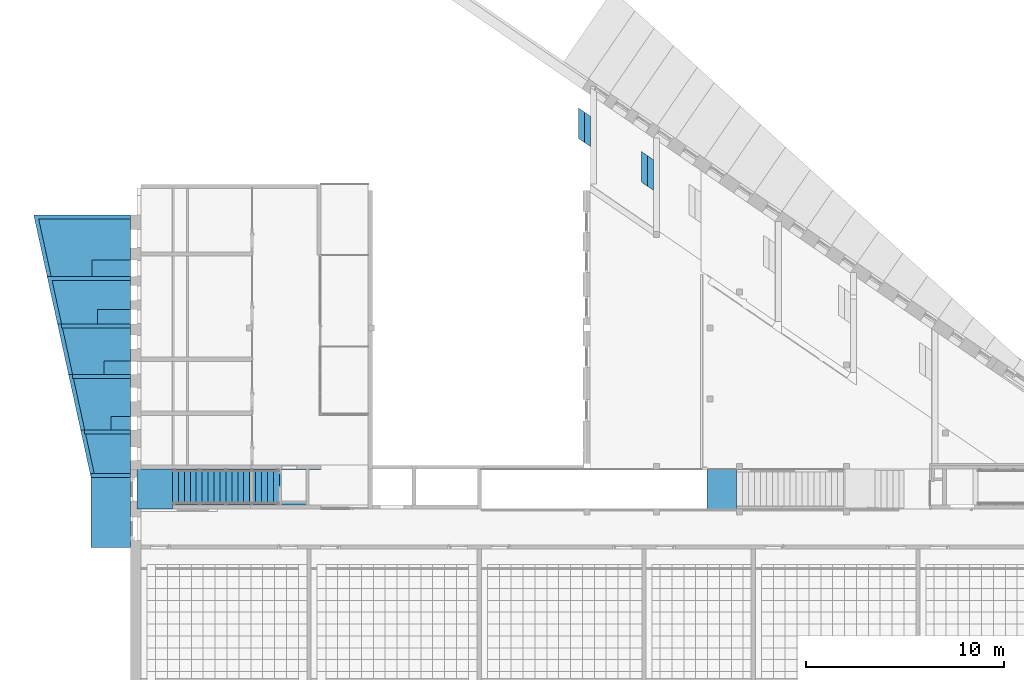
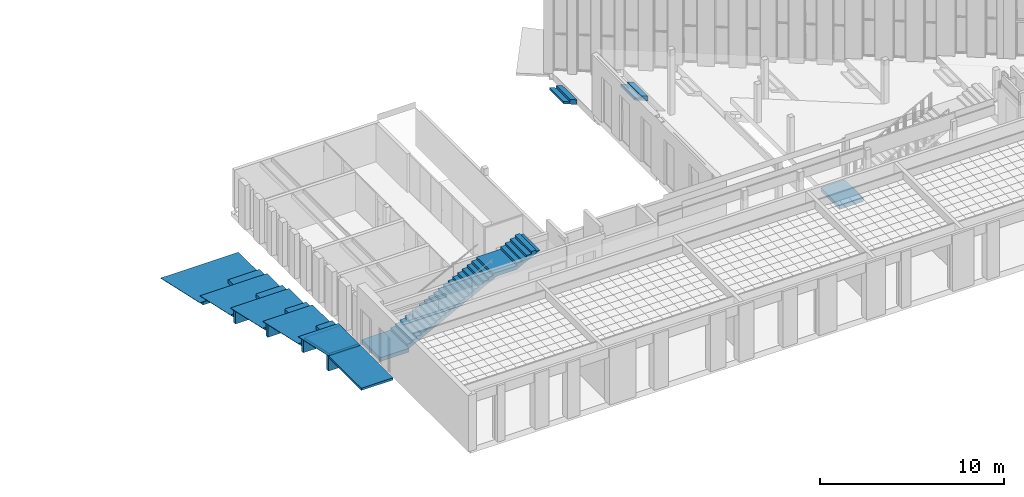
# One storey, part 47 of 79: 24 stairs.
"""IFC2X3 building model written with IfcOpenShell, lengths in millimetres."""

from ifc_helpers import new_model, entity, si_unit, converted_unit, derived_unit, money_unit, direction, frame, origin_with_axes, place, context, subcontext, project, spatial, faceted_brep, material, material_list, element, save


model = new_model("IFC2X3")

# Units and contexts
model_context = context("Model", 3, precision=0.01, world=origin_with_axes(), true_north=direction((0.0, 1.0)))
body_context = subcontext(model_context, "Body", "Model", "MODEL_VIEW")
ifc_project = project(units=[si_unit("LENGTHUNIT", "METRE", prefix="MILLI"), si_unit("AREAUNIT", "SQUARE_METRE"), si_unit("VOLUMEUNIT", "CUBIC_METRE"), converted_unit("PLANEANGLEUNIT", "DEGREE", entity("IfcPlaneAngleMeasure", 0.0174532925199), si_unit("PLANEANGLEUNIT", "RADIAN"), dimensions=[0, 0, 0, 0, 0, 0, 0]), si_unit("SOLIDANGLEUNIT", "STERADIAN"), money_unit("EUR"), converted_unit("TIMEUNIT", "Year", entity("IfcTimeMeasure", 31556926.0), si_unit("TIMEUNIT", "SECOND"), dimensions=[0, 0, 1, 0, 0, 0, 0]), si_unit("MASSUNIT", "GRAM", prefix="KILO"), si_unit("THERMODYNAMICTEMPERATUREUNIT", "DEGREE_CELSIUS"), si_unit("LUMINOUSINTENSITYUNIT", "LUMEN"), si_unit("ENERGYUNIT", "JOULE", prefix="MEGA"), derived_unit("THERMALCONDUCTANCEUNIT", [(si_unit("POWERUNIT", "WATT"), 1), (si_unit("LENGTHUNIT", "METRE"), -1), (si_unit("THERMODYNAMICTEMPERATUREUNIT", "KELVIN"), -1)]), derived_unit("SPECIFICHEATCAPACITYUNIT", [(si_unit("ENERGYUNIT", "JOULE"), 1), (si_unit("MASSUNIT", "GRAM", prefix="KILO"), -1), (si_unit("THERMODYNAMICTEMPERATUREUNIT", "KELVIN"), -1)]), derived_unit("MASSDENSITYUNIT", [(si_unit("MASSUNIT", "GRAM", prefix="KILO"), 1), (si_unit("VOLUMEUNIT", "CUBIC_METRE"), -1)])], contexts=[model_context])

# Site, building, storey
site_placement = place(None, origin_with_axes())
site = spatial("IfcSite", under=ifc_project, at=site_placement, Name="L.Koidula tn 11b", CompositionType="ELEMENT")
building_placement = place(site_placement, origin_with_axes())
building = spatial("IfcBuilding", under=site, at=building_placement, Name="Rakvere Riigigümnaasium", CompositionType="ELEMENT")
storey_placement = place(building_placement, frame((0.0, 0.0, 3720.0), z_axis=(0.0, 0.0, 1.0), x_axis=(1.0, 0.0, 0.0)))
storey = spatial("IfcBuildingStorey", under=building, at=storey_placement, Name="2.korrus +3,72", CompositionType="ELEMENT", Elevation=3720.0)

# Stairs
ifc_material_1 = material(Name="Puit-terrass")
stair_1_placement = place(storey_placement, frame((32986.0203572, 16700.4785302, -20.0), z_axis=(0.0, 0.0, 1.0), x_axis=(1.0, 0.0, 0.0)))
element("IfcStair", 1, at=stair_1_placement, inside=storey, material=ifc_material_1, Name="Astmestik-1", ShapeType="NOTDEFINED", context=body_context, shape_type="Brep", body=[
    faceted_brep([(0.0, 0.0, 0.0), (0.0, 0.0, -26.0), (1999.9796949, 0.0, -26.0), (1999.9796949, 0.0, 0.0), (-521.62019973, 2389.97699504, 0.0), (-521.62019973, 2389.97699504, -26.0), (1999.9796949, 2389.97699504, -26.0), (1999.9796949, 2389.97699504, 0.0)], [[[0, 1, 2, 3]], [[4, 5, 1, 0]], [[2, 1, 5, 6]], [[3, 2, 6, 7]], [[4, 0, 3, 7]], [[7, 6, 5, 4]]]),
])
ifc_material_2 = material(Name="Betoon element / plaat")
stair_2_placement = place(storey_placement, frame((35200.0000521, 15100.4785302, 0.0), z_axis=(0.0, 0.0, 1.0), x_axis=(1.0, 0.0, 0.0)))
element("IfcStair", 2, at=stair_2_placement, inside=storey, material=ifc_material_2, Name="TR-05", ShapeType="NOTDEFINED", context=body_context, shape_type="Brep", body=[
    faceted_brep([(100.0, 2009.97698206, -1.61944644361e-05), (100.0, 2009.97698206, -250.0), (100.0, 0.0, -250.0), (100.0, 0.0, -1.61944644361e-05), (1899.99994915, 2009.97697024, -250.0), (1899.99994915, 2009.97697024, 0.0), (1899.99994915, 0.0, -250.0), (1899.99994915, 0.0, 0.0)], [[[0, 1, 2, 3]], [[4, 1, 0, 5]], [[6, 2, 1, 4]], [[7, 3, 2, 6]], [[0, 3, 7, 5]], [[5, 7, 6, 4]]]),
])
stair_3_placement = place(storey_placement, frame((32464.4001575, 19090.4555253, -485.0), z_axis=(0.0, 0.0, 1.0), x_axis=(1.0, 0.0, 0.0)))
element("IfcStair", 3, at=stair_3_placement, inside=storey, material=ifc_material_1, Name="Astmestik-1", ShapeType="NOTDEFINED", context=body_context, shape_type="Brep", body=[
    faceted_brep([(1521.44264027, 0.0, 0.0), (0.0, 0.0, 0.0), (0.0, 0.0, -26.0), (1521.44264027, 0.0, -26.0), (2521.59989463, 2800.0, 0.0), (-611.109045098, 2800.0, 0.0), (1521.44264027, 690.0, 0.0), (2521.59989463, 690.0, 0.0), (-611.109045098, 2800.0, -26.0), (1521.44264027, 690.0, -26.0), (2521.59989463, 2800.0, -26.0), (2521.59989463, 690.0, -26.0)], [[[0, 1, 2, 3]], [[4, 5, 1, 0, 6, 7]], [[1, 5, 8, 2]], [[9, 3, 2, 8, 10, 11]], [[6, 0, 3, 9]], [[5, 4, 10, 8]], [[7, 6, 9, 11]], [[4, 7, 11, 10]]]),
])
stair_4_placement = place(storey_placement, frame((31853.2911124, 21890.4555253, -950.0), z_axis=(0.0, 0.0, 1.0), x_axis=(1.0, 0.0, 0.0)))
element("IfcStair", 4, at=stair_4_placement, inside=storey, material=ifc_material_1, Name="Astmestik-1", ShapeType="NOTDEFINED", context=body_context, shape_type="Brep", body=[
    faceted_brep([(1786.56227907, 0.0, 0.0), (0.0, 0.0, 0.0), (0.0, 0.0, -26.0), (1786.56227907, 0.0, -26.0), (3132.70893973, 2550.0, 0.0), (-556.5457375, 2550.0, 0.0), (1786.56227907, 690.0, 0.0), (3132.70893973, 690.0, 0.0), (-556.5457375, 2550.0, -26.0), (1786.56227907, 690.0, -26.0), (3132.70893973, 2550.0, -26.0), (3132.70893973, 690.0, -26.0)], [[[0, 1, 2, 3]], [[4, 5, 1, 0, 6, 7]], [[1, 5, 8, 2]], [[9, 3, 2, 8, 10, 11]], [[6, 0, 3, 9]], [[5, 4, 10, 8]], [[7, 6, 9, 11]], [[4, 7, 11, 10]]]),
])
stair_5_placement = place(storey_placement, frame((31296.7453749, 24440.4555253, -1415.0), z_axis=(0.0, 0.0, 1.0), x_axis=(1.0, 0.0, 0.0)))
element("IfcStair", 5, at=stair_5_placement, inside=storey, material=ifc_material_1, Name="Astmestik-1", ShapeType="NOTDEFINED", context=body_context, shape_type="Brep", body=[
    faceted_brep([(2028.01052156, 0.0, 0.0), (0.0, 0.0, 0.0), (0.0, 0.0, -26.0), (2028.01052156, 0.0, -26.0), (3689.25467723, 2400.0, 0.0), (-523.807752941, 2400.0, 0.0), (2028.01052156, 740.0, 0.0), (3689.25467723, 740.0, 0.0), (-523.807752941, 2400.0, -26.0), (2028.01052156, 740.0, -26.0), (3689.25467723, 2400.0, -26.0), (3689.25467723, 740.0, -26.0)], [[[0, 1, 2, 3]], [[4, 5, 1, 0, 6, 7]], [[1, 5, 8, 2]], [[9, 3, 2, 8, 10, 11]], [[6, 0, 3, 9]], [[5, 4, 10, 8]], [[7, 6, 9, 11]], [[4, 7, 11, 10]]]),
])
stair_6_placement = place(storey_placement, frame((30772.937622, 26840.4555253, -1880.0), z_axis=(0.0, 0.0, 1.0), x_axis=(1.0, 0.0, 0.0)))
element("IfcStair", 6, at=stair_6_placement, inside=storey, material=ifc_material_1, Name="Astmestik-1", ShapeType="NOTDEFINED", context=body_context, shape_type="Brep", body=[
    faceted_brep([(2255.25592624, 0.0, 0.0), (0.0, 0.0, 0.0), (0.0, 0.0, -26.0), (2255.25592624, 0.0, -26.0), (4213.06243017, 3099.99988007, 0.0), (-676.584988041, 3099.99988007, 0.0), (2255.25592624, 840.0, 0.0), (4213.06243017, 840.0, 0.0), (-676.584988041, 3099.99988007, -26.0), (2255.25592624, 840.0, -26.0), (4213.06243017, 3099.99988007, -26.0), (4213.06243017, 840.0, -26.0)], [[[0, 1, 2, 3]], [[4, 5, 1, 0, 6, 7]], [[1, 5, 8, 2]], [[9, 3, 2, 8, 10, 11]], [[6, 0, 3, 9]], [[5, 4, 10, 8]], [[7, 6, 9, 11]], [[4, 7, 11, 10]]]),
])
ifc_material_3 = material(Name="Betoon")
stair_7_placement = place(storey_placement, frame((57604.8070978, 33461.7953506, -2325.0), z_axis=(0.0, 0.0, 1.0), x_axis=(1.0, 0.0, 0.0)))
element("IfcStair", 7, at=stair_7_placement, inside=storey, material=ifc_material_3, Name="Trepp", ShapeType="NOTDEFINED", context=body_context, shape_type="Brep", body=[
    faceted_brep([(300.0, 151.659706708, 155.0), (300.0, 1691.67049532, 155.0), (0.0, 1897.41547384, 155.0), (0.0, 357.373095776, 155.0), (300.0, 151.659706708, 310.0), (300.0, 1691.67049532, 310.0), (0.0, 1897.41547384, 0.0), (600.0, 1485.9255168, 310.0), (600.0, 1485.9255168, 0.0), (0.0, 357.373095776, 0.0), (600.0, -54.0536823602, 0.0), (600.0, -54.0536823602, 310.0)], [[[0, 1, 2, 3]], [[1, 0, 4, 5]], [[6, 2, 1, 5, 7, 8]], [[2, 6, 9, 3]], [[0, 3, 9, 10, 11, 4]], [[7, 5, 4, 11]], [[11, 10, 8, 7]], [[8, 10, 9, 6]]]),
])
stair_8_placement = place(storey_placement, frame((60790.0092308, 31259.7377891, -1860.0), z_axis=(0.0, 0.0, 1.0), x_axis=(1.0, 0.0, 0.0)))
element("IfcStair", 8, at=stair_8_placement, inside=storey, material=ifc_material_3, Name="Trepp", ShapeType="NOTDEFINED", context=body_context, shape_type="Brep", body=[
    faceted_brep([(300.0, 152.069435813, 155.0), (300.0, 1692.08022444, 155.0), (0.0, 1897.82520296, 155.0), (0.0, 357.782824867, 155.0), (300.0, 152.069435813, 310.0), (300.0, 1692.08022444, 310.0), (0.0, 1897.82520296, 0.0), (600.0, 1486.33524592, 310.0), (600.0, 1486.33524592, 0.0), (0.0, 357.782824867, 0.0), (600.0, -53.6439532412, 0.0), (600.0, -53.6439532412, 310.0)], [[[0, 1, 2, 3]], [[1, 0, 4, 5]], [[6, 2, 1, 5, 7, 8]], [[2, 6, 9, 3]], [[0, 3, 9, 10, 11, 4]], [[7, 5, 4, 11]], [[11, 10, 8, 7]], [[8, 10, 9, 6]]]),
])
ifc_material_list = material_list([ifc_material_3, ifc_material_3, ifc_material_3])
stair_9_placement = place(storey_placement, frame((37100.0000013, 15300.4555005, 0.0), z_axis=(0.0, 0.0, 1.0), x_axis=(1.0, 0.0, 0.0)))
element("IfcStair", 9, at=stair_9_placement, inside=storey, material=ifc_material_list, Name="TR-05", ShapeType="NOTDEFINED", context=body_context, shape_type="Brep", body=[
    faceted_brep([(5400.0, 0.0, 2695.0), (5400.0, 1809.99999664, 2695.0), (5400.0, 1810.0, 2790.0), (5400.0, 0.0, 2790.0), (5651.83984529, 0.0, 2695.0), (5651.83984529, 1809.99999664, 2695.0), (5400.0, 1809.99999664, 2564.8827466), (5300.0, 1810.0, 2513.21607993), (5200.0, 1810.0, 2461.54941327), (5100.0, 1810.0, 2409.8827466), (5000.0, 1810.0, 2358.21607993), (4900.0, 1810.0, 2306.54941327), (4800.0, 1810.0, 2254.8827466), (4700.0, 1810.0, 2203.21607993), (4600.0, 1810.0, 2151.54941327), (4500.0, 1810.0, 2099.8827466), (4400.0, 1810.0, 2048.21607993), (4300.0, 1810.0, 1996.54941327), (4200.0, 1810.0, 1944.8827466), (4125.0, 1810.0, 1906.1327466), (4050.0, 1810.0, 1867.3827466), (3975.0, 1810.0, 1828.6327466), (3900.0, 1810.0, 1789.8827466), (3800.0, 1810.0, 1738.21607993), (3700.0, 1810.0, 1686.54941327), (3600.0, 1810.0, 1634.8827466), (3525.0, 1810.0, 1596.1327466), (3450.0, 1810.0, 1557.3827466), (3375.0, 1810.0, 1518.6327466), (3300.0, 1810.0, 1479.8827466), (3200.0, 1810.0, 1428.21607993), (3100.0, 1810.0, 1376.54941327), (3000.0, 1810.0, 1324.8827466), (2900.0, 1810.0, 1273.21607993), (2800.0, 1810.0, 1221.54941327), (2700.0, 1810.0, 1169.8827466), (2600.0, 1810.0, 1118.21607993), (2500.0, 1810.0, 1066.54941327), (2400.0, 1810.0, 1014.8827466), (2300.0, 1810.0, 963.216079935), (2200.0, 1810.0, 911.549413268), (2100.0, 1810.0, 859.882746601), (2000.0, 1810.0, 808.216079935), (1900.0, 1810.0, 756.549413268), (1800.0, 1810.0, 704.882746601), (1725.0, 1810.0, 666.132746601), (1650.0, 1810.0, 627.382746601), (1575.0, 1810.0, 588.632746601), (1500.0, 1810.0, 549.882746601), (1400.0, 1810.0, 498.216079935), (1300.0, 1810.0, 446.549413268), (1200.0, 1810.0, 394.882746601), (1100.0, 1810.0, 343.216079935), (1000.0, 1810.0, 291.549413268), (900.0, 1810.0, 239.882746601), (800.0, 1810.0, 188.216079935), (700.0, 1810.0, 136.549413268), (600.0, 1810.0, 84.8827466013), (500.0, 1810.0, 33.2160799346), (400.0, 1810.0, -18.450586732), (300.0, 1810.0, -70.1172533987), (200.0, 1810.0, -121.783920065), (100.0, 1810.0, -173.450586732), (0.0, 1810.0, -225.117253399), (0.0, 1810.0, 155.0), (300.0, 1810.0, 155.0), (300.0, 1810.0, 310.0), (600.0, 1810.0, 310.0), (600.0, 1810.0, 465.0), (900.0, 1810.0, 465.0), (900.0, 1810.0, 620.0), (1200.0, 1810.0, 620.0), (1200.0, 1810.0, 775.0), (1500.0, 1810.0, 775.0), (1500.0, 1810.0, 930.0), (1800.0, 1810.0, 930.0), (1800.0, 1810.0, 1085.0), (2100.0, 1810.0, 1085.0), (2100.0, 1810.0, 1240.0), (2400.0, 1810.0, 1240.0), (2400.0, 1810.0, 1395.0), (2700.0, 1810.0, 1395.0), (2700.0, 1810.0, 1550.0), (3000.0, 1810.0, 1550.0), (3000.0, 1810.0, 1705.0), (3300.0, 1810.0, 1705.0), (3300.0, 1810.0, 1860.0), (3600.0, 1810.0, 1860.0), (3600.0, 1810.0, 2015.0), (3900.0, 1810.0, 2015.0), (3900.0, 1810.0, 2170.0), (4200.0, 1810.0, 2170.0), (4200.0, 1810.0, 2325.0), (4500.0, 1810.0, 2325.0), (4500.0, 1810.0, 2480.0), (4800.0, 1810.0, 2480.0), (4800.0, 1810.0, 2635.0), (5100.0, 1810.0, 2635.0), (5100.0, 1810.0, 2790.0), (5100.0, 0.0, 2790.0), (5100.0, 0.0, 2635.0), (4800.0, 0.0, 2635.0), (4800.0, 0.0, 2480.0), (4500.0, 0.0, 2480.0), (4500.0, 0.0, 2325.0), (4200.0, 0.0, 2325.0), (4200.0, 0.0, 2170.0), (3900.0, 0.0, 2170.0), (3900.0, 0.0, 2015.0), (3600.0, 0.0, 2015.0), (3600.0, 0.0, 1860.0), (3300.0, 0.0, 1860.0), (3300.0, 0.0, 1705.0), (3000.0, 0.0, 1705.0), (3000.0, 0.0, 1550.0), (2700.0, 0.0, 1550.0), (2700.0, 0.0, 1395.0), (2400.0, 0.0, 1395.0), (2400.0, 0.0, 1240.0), (2100.0, 0.0, 1240.0), (2100.0, 0.0, 1085.0), (1800.0, 0.0, 1085.0), (1800.0, 0.0, 930.0), (1500.0, 0.0, 930.0), (1500.0, 0.0, 775.0), (1200.0, 0.0, 775.0), (1200.0, 0.0, 620.0), (900.0, 0.0, 620.0), (900.0, 0.0, 465.0), (600.0, 0.0, 465.0), (600.0, 0.0, 310.0), (300.0, 0.0, 310.0), (300.0, 0.0, 155.0), (0.0, 0.0, 155.0), (0.0, 0.0, -225.117253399), (100.0, 0.0, -173.450586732), (200.0, 0.0, -121.783920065), (300.0, 0.0, -70.1172533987), (400.0, 0.0, -18.450586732), (500.0, 0.0, 33.2160799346), (600.0, 0.0, 84.8827466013), (700.0, 0.0, 136.549413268), (800.0, 0.0, 188.216079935), (900.0, 0.0, 239.882746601), (1000.0, 0.0, 291.549413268), (1100.0, 0.0, 343.216079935), (1200.0, 0.0, 394.882746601), (1300.0, 0.0, 446.549413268), (1400.0, 0.0, 498.216079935), (1500.0, 0.0, 549.882746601), (1575.0, 0.0, 588.632746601), (1650.0, 0.0, 627.382746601), (1725.0, 0.0, 666.132746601), (1800.0, 0.0, 704.882746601), (1900.0, 0.0, 756.549413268), (2000.0, 0.0, 808.216079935), (2100.0, 0.0, 859.882746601), (2200.0, 0.0, 911.549413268), (2300.0, 0.0, 963.216079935), (2400.0, 0.0, 1014.8827466), (2500.0, 0.0, 1066.54941327), (2600.0, 0.0, 1118.21607993), (2700.0, 0.0, 1169.8827466), (2800.0, 0.0, 1221.54941327), (2900.0, 0.0, 1273.21607993), (3000.0, 0.0, 1324.8827466), (3100.0, 0.0, 1376.54941327), (3200.0, 0.0, 1428.21607993), (3300.0, 0.0, 1479.8827466), (3375.0, 0.0, 1518.6327466), (3450.0, 0.0, 1557.3827466), (3525.0, 0.0, 1596.1327466), (3600.0, 0.0, 1634.8827466), (3700.0, 0.0, 1686.54941327), (3800.0, 0.0, 1738.21607993), (3900.0, 0.0, 1789.8827466), (3975.0, 0.0, 1828.6327466), (4050.0, 0.0, 1867.3827466), (4125.0, 0.0, 1906.1327466), (4200.0, 0.0, 1944.8827466), (4300.0, 0.0, 1996.54941327), (4400.0, 0.0, 2048.21607993), (4500.0, 0.0, 2099.8827466), (4600.0, 0.0, 2151.54941327), (4700.0, 0.0, 2203.21607993), (4800.0, 0.0, 2254.8827466), (4900.0, 0.0, 2306.54941327), (5000.0, 0.0, 2358.21607993), (5100.0, 0.0, 2409.8827466), (5200.0, 0.0, 2461.54941327), (5300.0, 0.0, 2513.21607993), (5400.0, 0.0, 2564.8827466)], [[[0, 1, 2, 3]], [[1, 0, 4, 5]], [[6, 7, 8, 9, 10, 11, 12, 13, 14, 15, 16, 17, 18, 19, 20, 21, 22, 23, 24, 25, 26, 27, 28, 29, 30, 31, 32, 33, 34, 35, 36, 37, 38, 39, 40, 41, 42, 43, 44, 45, 46, 47, 48, 49, 50, 51, 52, 53, 54, 55, 56, 57, 58, 59, 60, 61, 62, 63, 64, 65, 66, 67, 68, 69, 70, 71, 72, 73, 74, 75, 76, 77, 78, 79, 80, 81, 82, 83, 84, 85, 86, 87, 88, 89, 90, 91, 92, 93, 94, 95, 96, 97, 98, 2, 1, 5]], [[99, 3, 2, 98]], [[0, 3, 99, 100, 101, 102, 103, 104, 105, 106, 107, 108, 109, 110, 111, 112, 113, 114, 115, 116, 117, 118, 119, 120, 121, 122, 123, 124, 125, 126, 127, 128, 129, 130, 131, 132, 133, 134, 135, 136, 137, 138, 139, 140, 141, 142, 143, 144, 145, 146, 147, 148, 149, 150, 151, 152, 153, 154, 155, 156, 157, 158, 159, 160, 161, 162, 163, 164, 165, 166, 167, 168, 169, 170, 171, 172, 173, 174, 175, 176, 177, 178, 179, 180, 181, 182, 183, 184, 185, 186, 187, 188, 189, 190, 191, 4]], [[191, 190, 7, 6, 5, 4]], [[189, 8, 7, 190]], [[188, 9, 8, 189]], [[187, 10, 9, 188]], [[186, 11, 10, 187]], [[185, 12, 11, 186]], [[184, 13, 12, 185]], [[183, 14, 13, 184]], [[182, 15, 14, 183]], [[181, 16, 15, 182]], [[180, 17, 16, 181]], [[179, 18, 17, 180]], [[178, 19, 18, 179]], [[177, 20, 19, 178]], [[176, 21, 20, 177]], [[175, 22, 21, 176]], [[174, 23, 22, 175]], [[173, 24, 23, 174]], [[172, 25, 24, 173]], [[171, 26, 25, 172]], [[170, 27, 26, 171]], [[169, 28, 27, 170]], [[168, 29, 28, 169]], [[167, 30, 29, 168]], [[166, 31, 30, 167]], [[165, 32, 31, 166]], [[164, 33, 32, 165]], [[163, 34, 33, 164]], [[162, 35, 34, 163]], [[161, 36, 35, 162]], [[160, 37, 36, 161]], [[159, 38, 37, 160]], [[158, 39, 38, 159]], [[157, 40, 39, 158]], [[156, 41, 40, 157]], [[155, 42, 41, 156]], [[154, 43, 42, 155]], [[153, 44, 43, 154]], [[152, 45, 44, 153]], [[151, 46, 45, 152]], [[150, 47, 46, 151]], [[149, 48, 47, 150]], [[148, 49, 48, 149]], [[147, 50, 49, 148]], [[146, 51, 50, 147]], [[145, 52, 51, 146]], [[144, 53, 52, 145]], [[143, 54, 53, 144]], [[142, 55, 54, 143]], [[141, 56, 55, 142]], [[140, 57, 56, 141]], [[139, 58, 57, 140]], [[138, 59, 58, 139]], [[137, 60, 59, 138]], [[136, 61, 60, 137]], [[135, 62, 61, 136]], [[134, 63, 62, 135]], [[64, 63, 134, 133]], [[64, 133, 132, 65]], [[131, 66, 65, 132]], [[66, 131, 130, 67]], [[129, 68, 67, 130]], [[68, 129, 128, 69]], [[127, 70, 69, 128]], [[70, 127, 126, 71]], [[125, 72, 71, 126]], [[72, 125, 124, 73]], [[123, 74, 73, 124]], [[74, 123, 122, 75]], [[121, 76, 75, 122]], [[76, 121, 120, 77]], [[119, 78, 77, 120]], [[78, 119, 118, 79]], [[117, 80, 79, 118]], [[80, 117, 116, 81]], [[115, 82, 81, 116]], [[82, 115, 114, 83]], [[113, 84, 83, 114]], [[84, 113, 112, 85]], [[111, 86, 85, 112]], [[86, 111, 110, 87]], [[109, 88, 87, 110]], [[88, 109, 108, 89]], [[107, 90, 89, 108]], [[90, 107, 106, 91]], [[105, 92, 91, 106]], [[92, 105, 104, 93]], [[103, 94, 93, 104]], [[94, 103, 102, 95]], [[101, 96, 95, 102]], [[96, 101, 100, 97]], [[99, 98, 97, 100]]]),
    faceted_brep([(6851.8398449, 0.00387168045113, 2695.0), (6851.8398449, 0.00387168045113, 2945.0), (6600.00000508, 0.0, 2945.0), (6600.00000508, 0.0, 2695.0), (6851.81206456, 1810.00386829, 2945.0), (6851.81206456, 1810.00386829, 2695.0), (6599.98611491, 1809.99999664, 2945.0), (5400.0, 1809.99999664, 2945.0), (5400.0, 0.0, 2945.0), (5400.0, 0.0, 2695.0), (5400.0, 1809.99999664, 2695.0), (6599.98611491, 1809.99999664, 2695.0)], [[[0, 1, 2, 3]], [[4, 1, 0, 5]], [[1, 4, 6, 7, 8, 2]], [[8, 9, 3, 2]], [[5, 0, 3, 9, 10, 11]], [[4, 5, 11, 6]], [[6, 11, 10, 7]], [[7, 10, 9, 8]]]),
    faceted_brep([(8099.99999564, 0.0230297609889, 3465.0), (8099.97221089, 1810.02302955, 3465.0), (8099.97221089, 1810.02302955, 3565.0), (8099.99999564, 0.0230297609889, 3565.0), (8342.16242155, 0.0267471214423, 3465.0), (8342.1346368, 1810.02674691, 3465.0), (8099.97221089, 1810.02302955, 3339.8827466), (8024.9722109, 1810.02187825, 3301.1327466), (7999.9722109, 1810.02149448, 3288.21607993), (7949.97221091, 1810.02072694, 3262.3827466), (7899.97221092, 1810.01995941, 3236.54941327), (7874.97221092, 1810.01957564, 3223.6327466), (7799.97221093, 1810.01842434, 3184.8827466), (7724.97221094, 1810.01727304, 3146.1327466), (7649.97221095, 1810.01612174, 3107.3827466), (7574.97221095, 1810.01497044, 3068.6327466), (7499.97221096, 1810.01381913, 3029.8827466), (7399.97221097, 1810.01228406, 2978.21607993), (7299.97221099, 1810.010749, 2926.54941327), (7199.972211, 1810.00921393, 2874.8827466), (7099.97221101, 1810.00767886, 2823.21607993), (6999.97221102, 1810.00614379, 2771.54941327), (6899.97221927, 1810.00460872, 2719.88275086), (6851.81206456, 1810.00386829, 2695.00000426), (6851.81206456, 1810.00386829, 2945.0), (6899.97221927, 1810.00460872, 2945.0), (6899.97221103, 1810.00460872, 3100.0), (7199.972211, 1810.00921393, 3100.0), (7199.972211, 1810.00921393, 3255.0), (7499.97221096, 1810.01381913, 3255.0), (7499.97221096, 1810.01381913, 3410.0), (7799.97221093, 1810.01842434, 3410.0), (7799.97221093, 1810.01842434, 3565.0), (7799.99999568, 0.018424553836, 3565.0), (7799.99999568, 0.018424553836, 3410.0), (7499.99999571, 0.0138193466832, 3410.0), (7499.99999571, 0.0138193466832, 3255.0), (7199.99999575, 0.00921413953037, 3255.0), (7199.99999575, 0.00921413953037, 3100.0), (6899.99999578, 0.00460893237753, 3100.0), (6899.9999996, 0.00461207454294, 2945.0), (6851.8398449, 0.00387168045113, 2945.0), (6851.8398449, 0.00387168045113, 2695.00000197), (6899.9999996, 0.00461207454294, 2719.88274858), (6999.99999577, 0.00614400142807, 2771.54941327), (7099.99999576, 0.00767907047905, 2823.21607993), (7199.99999575, 0.00921413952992, 2874.8827466), (7299.99999574, 0.010749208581, 2926.54941327), (7399.99999572, 0.012284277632, 2978.21607993), (7499.99999571, 0.0138193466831, 3029.8827466), (7574.9999957, 0.0149706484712, 3068.6327466), (7649.99999569, 0.0161219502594, 3107.3827466), (7724.99999569, 0.0172732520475, 3146.1327466), (7799.99999568, 0.0184245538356, 3184.8827466), (7874.99999567, 0.0195758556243, 3223.6327466), (7899.99999567, 0.019959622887, 3236.54941327), (7949.99999566, 0.0207271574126, 3262.3827466), (7999.99999565, 0.0214946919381, 3288.21607993), (8024.99999565, 0.0218784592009, 3301.1327466), (8099.99999564, 0.0230297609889, 3339.8827466)], [[[0, 1, 2, 3]], [[1, 0, 4, 5]], [[6, 7, 8, 9, 10, 11, 12, 13, 14, 15, 16, 17, 18, 19, 20, 21, 22, 23, 24, 25, 26, 27, 28, 29, 30, 31, 32, 2, 1, 5]], [[32, 33, 3, 2]], [[0, 3, 33, 34, 35, 36, 37, 38, 39, 40, 41, 42, 43, 44, 45, 46, 47, 48, 49, 50, 51, 52, 53, 54, 55, 56, 57, 58, 59, 4]], [[59, 58, 7, 6, 5, 4]], [[8, 7, 58, 57]], [[9, 8, 57, 56]], [[10, 9, 56, 55]], [[11, 10, 55, 54]], [[12, 11, 54, 53]], [[13, 12, 53, 52]], [[14, 13, 52, 51]], [[15, 14, 51, 50]], [[16, 15, 50, 49]], [[17, 16, 49, 48]], [[18, 17, 48, 47]], [[19, 18, 47, 46]], [[20, 19, 46, 45]], [[21, 20, 45, 44]], [[44, 43, 22, 21]], [[23, 22, 43, 42]], [[23, 42, 41, 24]], [[41, 40, 25, 24]], [[26, 25, 40, 39]], [[27, 26, 39, 38]], [[38, 37, 28, 27]], [[29, 28, 37, 36]], [[36, 35, 30, 29]], [[31, 30, 35, 34]], [[34, 33, 32, 31]]]),
])
stair_10_placement = place(storey_placement, frame((64090.0000003, 15100.4785302, 0.0), z_axis=(0.0, 0.0, 1.0), x_axis=(1.0, 0.0, 0.0)))
element("IfcStair", 10, at=stair_10_placement, inside=storey, material=ifc_material_2, Name="TR-01", ShapeType="NOTDEFINED", context=body_context, shape_type="Brep", body=[
    faceted_brep([(1509.99807258, 0.0, 0.0), (0.0, 0.0, 0.0), (0.0, 0.0, -250.0), (1509.99807258, 0.0, -250.0), (1509.99807258, 2009.97695546, 0.0), (0.0, 2009.97695546, 0.0), (0.0, 2009.97695546, -250.0), (1509.99807258, 2009.97695546, -250.0)], [[[0, 1, 2, 3]], [[4, 5, 1, 0]], [[1, 5, 6, 2]], [[7, 3, 2, 6]], [[4, 0, 3, 7]], [[5, 4, 7, 6]]]),
])
stair_11_placement = place(storey_placement, frame((32986.0203572, 13146.4555389, -20.0), z_axis=(0.0, 0.0, 1.0), x_axis=(1.0, 0.0, 0.0)))
element("IfcStair", 11, at=stair_11_placement, inside=storey, material=ifc_material_3, Name="VTR-01", ShapeType="NOTDEFINED", context=body_context, shape_type="Brep", body=[
    faceted_brep([(0.0, 0.0, 0.0), (0.0, 0.0, -150.0), (1999.9796949, 0.0, -150.0), (1999.9796949, 0.0, 0.0), (0.0, 3554.02299137, 0.0), (0.0, 3554.02299137, -150.0), (1999.9796949, 3554.02299137, -150.0), (1999.9796949, 3554.02299137, 0.0)], [[[0, 1, 2, 3]], [[4, 5, 1, 0]], [[2, 1, 5, 6]], [[3, 2, 6, 7]], [[4, 0, 3, 7]], [[7, 6, 5, 4]]]),
])
stair_12_placement = place(storey_placement, frame((33985.8427978, 19090.4555253, -252.0), z_axis=(0.0, 0.0, 1.0), x_axis=(1.0, 0.0, 0.0)))
element("IfcStair", 12, at=stair_12_placement, inside=storey, material=ifc_material_3, Name="Astmestik-1", ShapeType="NOTDEFINED", context=body_context, shape_type="Brep", body=[
    faceted_brep([(0.0, 0.0, 0.0), (0.0, 0.0, -250.0), (1000.15725436, 0.0, -250.0), (1000.15725436, 0.0, 0.0), (0.0, 690.0, 0.0), (0.0, 690.0, -250.0), (1000.15725436, 690.0, -250.0), (1000.15725436, 690.0, 0.0)], [[[0, 1, 2, 3]], [[4, 5, 1, 0]], [[2, 1, 5, 6]], [[3, 2, 6, 7]], [[4, 0, 3, 7]], [[7, 6, 5, 4]]]),
])
stair_13_placement = place(storey_placement, frame((33639.8533915, 21890.4555253, -717.0), z_axis=(0.0, 0.0, 1.0), x_axis=(1.0, 0.0, 0.0)))
element("IfcStair", 13, at=stair_13_placement, inside=storey, material=ifc_material_3, Name="Astmestik-1", ShapeType="NOTDEFINED", context=body_context, shape_type="Brep", body=[
    faceted_brep([(0.0, 0.0, 0.0), (0.0, 0.0, -250.0), (1346.14666065, 0.0, -250.0), (1346.14666065, 0.0, 0.0), (0.0, 690.0, 0.0), (0.0, 690.0, -250.0), (1346.14666065, 690.0, -250.0), (1346.14666065, 690.0, 0.0)], [[[0, 1, 2, 3]], [[4, 5, 1, 0]], [[2, 1, 5, 6]], [[3, 2, 6, 7]], [[4, 0, 3, 7]], [[7, 6, 5, 4]]]),
])
stair_14_placement = place(storey_placement, frame((33324.7558965, 24440.4555253, -1182.0), z_axis=(0.0, 0.0, 1.0), x_axis=(1.0, 0.0, 0.0)))
element("IfcStair", 14, at=stair_14_placement, inside=storey, material=ifc_material_3, Name="Astmestik-1", ShapeType="NOTDEFINED", context=body_context, shape_type="Brep", body=[
    faceted_brep([(0.0, 0.0, 0.0), (0.0, 0.0, -250.0), (1661.24415567, 0.0, -250.0), (1661.24415567, 0.0, 0.0), (0.0, 740.0, 0.0), (0.0, 740.0, -250.0), (1661.24415567, 740.0, -250.0), (1661.24415567, 740.0, 0.0)], [[[0, 1, 2, 3]], [[4, 5, 1, 0]], [[2, 1, 5, 6]], [[3, 2, 6, 7]], [[4, 0, 3, 7]], [[7, 6, 5, 4]]]),
])
stair_15_placement = place(storey_placement, frame((33028.1935482, 26840.4555253, -1647.0), z_axis=(0.0, 0.0, 1.0), x_axis=(1.0, 0.0, 0.0)))
element("IfcStair", 15, at=stair_15_placement, inside=storey, material=ifc_material_3, Name="Astmestik-1", ShapeType="NOTDEFINED", context=body_context, shape_type="Brep", body=[
    faceted_brep([(0.0, 0.0, 0.0), (0.0, 0.0, -250.0), (1957.80650392, 0.0, -250.0), (1957.80650392, 0.0, 0.0), (0.0, 840.0, 0.0), (0.0, 840.0, -250.0), (1957.80650392, 840.0, -250.0), (1957.80650392, 840.0, 0.0)], [[[0, 1, 2, 3]], [[4, 5, 1, 0]], [[2, 1, 5, 6]], [[3, 2, 6, 7]], [[4, 0, 3, 7]], [[7, 6, 5, 4]]]),
])
ifc_material_4 = material(Name="Karkass-puit")
stair_16_placement = place(storey_placement, frame((33044.7237278, 16900.4785302, -46.0), z_axis=(0.0, 0.0, 1.0), x_axis=(1.0, 0.0, 0.0)))
element("IfcStair", 16, at=stair_16_placement, inside=storey, material=ifc_material_4, Name="Astmestik-1", ShapeType="NOTDEFINED", context=body_context, shape_type="Brep", body=[
    faceted_brep([(1941.27632432, 1989.97699504, 0.0), (-331.964890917, 1989.97699504, 0.0), (102.354016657, 0.0, 0.0), (1941.27632432, 0.0, 0.0), (1941.27632432, 1989.97699504, -200.0), (-331.964890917, 1989.97699504, -200.0), (102.354016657, 0.0, -200.0), (1941.27632432, 0.0, -200.0)], [[[0, 1, 2, 3]], [[4, 5, 1, 0]], [[5, 6, 2, 1]], [[3, 2, 6, 7]], [[0, 3, 7, 4]], [[7, 6, 5, 4]]]),
])
stair_17_placement = place(storey_placement, frame((32566.7541742, 19090.4555253, -511.0), z_axis=(0.0, 0.0, 1.0), x_axis=(1.0, 0.0, 0.0)))
element("IfcStair", 17, at=stair_17_placement, inside=storey, material=ifc_material_4, Name="Astmestik-1", ShapeType="NOTDEFINED", context=body_context, shape_type="Brep", body=[
    faceted_brep([(1419.08862362, 0.0, 0.0), (1419.08863816, 670.0, 0.0), (1419.08864104, 690.000000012, 0.0), (2419.24588085, 689.99985594, 0.0), (2419.24587797, 2600.0, 0.0), (-465.104382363, 2600.0, 0.0), (102.354016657, 0.0, 0.0), (1419.08862362, 0.0, -200.0), (1419.08863816, 670.0, -200.0), (1419.08864104, 690.000000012, -200.0), (2419.24588085, 689.99985594, -200.0), (2419.24587797, 2600.0, -200.0), (-465.104382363, 2600.0, -200.0), (102.354016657, 0.0, -200.0)], [[[0, 1, 2, 3, 4, 5, 6]], [[7, 8, 1, 0]], [[9, 2, 1, 8]], [[9, 10, 3, 2]], [[4, 3, 10, 11]], [[11, 12, 5, 4]], [[12, 13, 6, 5]], [[0, 6, 13, 7]], [[10, 9, 8, 7, 13, 12, 11]]]),
])
stair_18_placement = place(storey_placement, frame((31955.6451291, 21890.4555253, -976.0), z_axis=(0.0, 0.0, 1.0), x_axis=(1.0, 0.0, 0.0)))
element("IfcStair", 18, at=stair_18_placement, inside=storey, material=ifc_material_4, Name="Astmestik-1", ShapeType="NOTDEFINED", context=body_context, shape_type="Brep", body=[
    faceted_brep([(1684.20826242, 0.0, 0.0), (1684.20827694, 670.0, 0.0), (1684.20827982, 690.000000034, 0.0), (3030.35492595, 689.999806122, 0.0), (3030.35492307, 2350.0, 0.0), (-410.541074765, 2350.0, 0.0), (102.354016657, 0.0, 0.0), (1684.20826242, 0.0, -200.0), (1684.20827694, 670.0, -200.0), (1684.20827982, 690.000000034, -200.0), (3030.35492595, 689.999806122, -200.0), (3030.35492307, 2350.0, -200.0), (-410.541074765, 2350.0, -200.0), (102.354016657, 0.0, -200.0)], [[[0, 1, 2, 3, 4, 5, 6]], [[7, 8, 1, 0]], [[9, 2, 1, 8]], [[9, 10, 3, 2]], [[4, 3, 10, 11]], [[11, 12, 5, 4]], [[12, 13, 6, 5]], [[0, 6, 13, 7]], [[10, 9, 8, 7, 13, 12, 11]]]),
])
stair_19_placement = place(storey_placement, frame((31399.0993916, 24440.4555253, -1441.0), z_axis=(0.0, 0.0, 1.0), x_axis=(1.0, 0.0, 0.0)))
element("IfcStair", 19, at=stair_19_placement, inside=storey, material=ifc_material_4, Name="Astmestik-1", ShapeType="NOTDEFINED", context=body_context, shape_type="Brep", body=[
    faceted_brep([(3586.90066057, 2200.0, 0.0), (-377.803090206, 2200.0, 0.0), (102.354016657, 0.0, 0.0), (1925.6565049, 0.0, 0.0), (1925.6565049, 739.999802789, 0.0), (3586.90066057, 739.999802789, 0.0), (3586.90066057, 2200.0, -200.0), (-377.803090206, 2200.0, -200.0), (102.354016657, 0.0, -200.0), (1925.6565049, 0.0, -200.0), (1925.6565049, 739.999802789, -200.0), (3586.90066057, 739.999802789, -200.0)], [[[0, 1, 2, 3, 4, 5]], [[6, 7, 1, 0]], [[7, 8, 2, 1]], [[3, 2, 8, 9]], [[4, 3, 9, 10]], [[5, 4, 10, 11]], [[0, 5, 11, 6]], [[9, 8, 7, 6, 11, 10]]]),
])
stair_20_placement = place(storey_placement, frame((30875.2916386, 26840.4555253, -1906.0), z_axis=(0.0, 0.0, 1.0), x_axis=(1.0, 0.0, 0.0)))
element("IfcStair", 20, at=stair_20_placement, inside=storey, material=ifc_material_4, Name="Astmestik-1", ShapeType="NOTDEFINED", context=body_context, shape_type="Brep", body=[
    faceted_brep([(4110.70841351, 2899.99988007, 0.0), (-530.580325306, 2899.99988007, 0.0), (102.354016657, 0.0, 0.0), (2152.90190959, 0.0, 0.0), (2152.90190959, 840.00008481, 0.0), (4110.70841351, 840.00008481, 0.0), (4110.70841351, 2899.99988007, -200.0), (-530.580325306, 2899.99988007, -200.0), (102.354016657, 0.0, -200.0), (2152.90190959, 0.0, -200.0), (2152.90190959, 840.00008481, -200.0), (4110.70841351, 840.00008481, -200.0)], [[[0, 1, 2, 3, 4, 5]], [[6, 7, 1, 0]], [[7, 8, 2, 1]], [[3, 2, 8, 9]], [[4, 3, 9, 10]], [[5, 4, 10, 11]], [[0, 5, 11, 6]], [[9, 8, 7, 6, 11, 10]]]),
])
stair_21_placement = place(storey_placement, frame((34986.0000521, 24440.4555253, -1975.0), z_axis=(0.0, 0.0, 1.0), x_axis=(-1.0, 0.0, 0.0)))
element("IfcStair", 21, at=stair_21_placement, inside=storey, material=ifc_material_3, Name="Astmestik-1", ShapeType="NOTDEFINED", context=body_context, shape_type="Brep", body=[
    faceted_brep([(3484.54664391, 0.0, 999.0), (3484.54664391, 200.0, 999.0), (0.0, 200.0, 999.0), (0.0, 0.0, 999.0), (3484.54664391, 0.0, 0.0), (3484.54664391, 200.0, 0.0), (0.0, 200.0, 0.0), (0.0, 0.0, 0.0)], [[[0, 1, 2, 3]], [[0, 4, 5, 1]], [[1, 5, 6, 2]], [[3, 2, 6, 7]], [[4, 0, 3, 7]], [[5, 4, 7, 6]]]),
])
stair_22_placement = place(storey_placement, frame((34986.0000521, 21890.4555253, -1510.0), z_axis=(0.0, 0.0, 1.0), x_axis=(-1.0, 0.0, 0.0)))
element("IfcStair", 22, at=stair_22_placement, inside=storey, material=ifc_material_3, Name="Astmestik-1", ShapeType="NOTDEFINED", context=body_context, shape_type="Brep", body=[
    faceted_brep([(2928.00090641, 0.0, 999.0), (2928.00090641, 200.0, 999.0), (0.0, 200.0, 999.0), (0.0, 0.0, 999.0), (2928.00090641, 0.0, 0.0), (2928.00090641, 200.0, 0.0), (0.0, 200.0, 0.0), (0.0, 0.0, 0.0)], [[[0, 1, 2, 3]], [[0, 4, 5, 1]], [[1, 5, 6, 2]], [[3, 2, 6, 7]], [[4, 0, 3, 7]], [[5, 4, 7, 6]]]),
])
stair_23_placement = place(storey_placement, frame((34986.0000521, 19090.4555253, -1045.0), z_axis=(0.0, 0.0, 1.0), x_axis=(-1.0, 0.0, 0.0)))
element("IfcStair", 23, at=stair_23_placement, inside=storey, material=ifc_material_3, Name="Astmestik-1", ShapeType="NOTDEFINED", context=body_context, shape_type="Brep", body=[
    faceted_brep([(2316.89186131, 0.0, 999.0), (2316.89186131, 200.0, 999.0), (0.0, 200.0, 999.0), (0.0, 0.0, 999.0), (2316.89186131, 0.0, 0.0), (2316.89186131, 200.0, 0.0), (0.0, 200.0, 0.0), (0.0, 0.0, 0.0)], [[[0, 1, 2, 3]], [[0, 4, 5, 1]], [[1, 5, 6, 2]], [[3, 2, 6, 7]], [[4, 0, 3, 7]], [[5, 4, 7, 6]]]),
])
stair_24_placement = place(storey_placement, frame((34986.0000521, 16900.4785302, -1045.98628682), z_axis=(0.0, 0.0, 1.0), x_axis=(-1.0, 0.0, 0.0)))
element("IfcStair", 24, at=stair_24_placement, inside=storey, material=ifc_material_3, Name="Astmestik-1", ShapeType="NOTDEFINED", context=body_context, shape_type="Brep", body=[
    faceted_brep([(0.0, 0.0, 0.0), (1999.9796949, 0.0, 0.0), (1999.9796949, 0.0, 999.986286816), (0.0, 0.0, 999.986286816), (0.0, 200.0, 0.0), (1999.9796949, 200.0, 0.0), (1999.9796949, 200.0, 999.986286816), (0.0, 200.0, 999.986286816)], [[[0, 1, 2, 3]], [[1, 0, 4, 5]], [[1, 5, 6, 2]], [[2, 6, 7, 3]], [[4, 0, 3, 7]], [[5, 4, 7, 6]]]),
])

save(model, "model.ifc")
